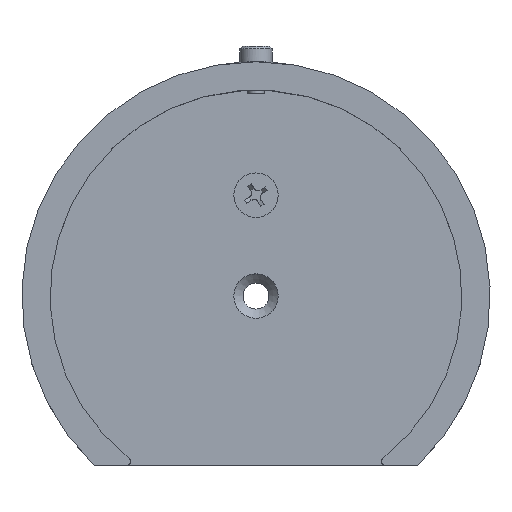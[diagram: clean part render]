
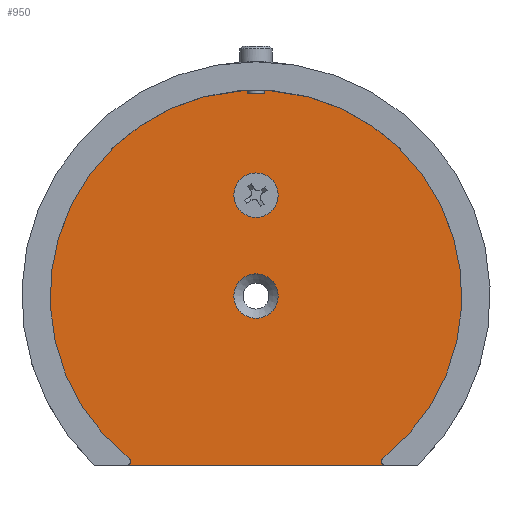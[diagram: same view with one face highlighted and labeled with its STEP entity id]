
A CAD part, top view. The second image highlights one B-rep face of the part: STEP entity #950.
In plain terms, the highlighted planar face has unit normal (0, 0, 1).
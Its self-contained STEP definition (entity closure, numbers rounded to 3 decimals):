
#44=FACE_BOUND('',#114,.T.);
#45=FACE_BOUND('',#115,.T.);
#55=FACE_OUTER_BOUND('',#113,.T.);
#113=EDGE_LOOP('',(#607,#608,#609,#610));
#114=EDGE_LOOP('',(#611));
#115=EDGE_LOOP('',(#612));
#181=CIRCLE('',#1033,0.5);
#182=CIRCLE('',#1034,25.5);
#183=CIRCLE('',#1035,0.5);
#184=CIRCLE('',#1036,2.75);
#185=CIRCLE('',#1037,2.75);
#220=LINE('',#1419,#305);
#305=VECTOR('',#1138,10.);
#393=VERTEX_POINT('',#1417);
#394=VERTEX_POINT('',#1418);
#395=VERTEX_POINT('',#1420);
#396=VERTEX_POINT('',#1422);
#397=VERTEX_POINT('',#1425);
#398=VERTEX_POINT('',#1427);
#478=EDGE_CURVE('',#393,#394,#220,.T.);
#479=EDGE_CURVE('',#395,#394,#181,.F.);
#480=EDGE_CURVE('',#395,#396,#182,.T.);
#481=EDGE_CURVE('',#393,#396,#183,.F.);
#482=EDGE_CURVE('',#397,#397,#184,.T.);
#483=EDGE_CURVE('',#398,#398,#185,.T.);
#607=ORIENTED_EDGE('',*,*,#478,.T.);
#608=ORIENTED_EDGE('',*,*,#479,.F.);
#609=ORIENTED_EDGE('',*,*,#480,.T.);
#610=ORIENTED_EDGE('',*,*,#481,.F.);
#611=ORIENTED_EDGE('',*,*,#482,.T.);
#612=ORIENTED_EDGE('',*,*,#483,.T.);
#862=PLANE('',#1032);
#950=ADVANCED_FACE('',(#55,#44,#45),#862,.F.);
#1032=AXIS2_PLACEMENT_3D('',#1416,#1136,#1137);
#1033=AXIS2_PLACEMENT_3D('',#1421,#1139,#1140);
#1034=AXIS2_PLACEMENT_3D('',#1423,#1141,#1142);
#1035=AXIS2_PLACEMENT_3D('',#1424,#1143,#1144);
#1036=AXIS2_PLACEMENT_3D('',#1426,#1145,#1146);
#1037=AXIS2_PLACEMENT_3D('',#1428,#1147,#1148);
#1136=DIRECTION('center_axis',(0.,0.,-1.));
#1137=DIRECTION('ref_axis',(-1.,0.,0.));
#1138=DIRECTION('',(1.,0.,0.));
#1139=DIRECTION('center_axis',(0.,0.,-1.));
#1140=DIRECTION('ref_axis',(-0.945,-0.326,0.));
#1141=DIRECTION('center_axis',(0.,0.,1.));
#1142=DIRECTION('ref_axis',(-1.,0.,0.));
#1143=DIRECTION('center_axis',(0.,0.,-1.));
#1144=DIRECTION('ref_axis',(0.945,-0.326,0.));
#1145=DIRECTION('center_axis',(0.,0.,-1.));
#1146=DIRECTION('ref_axis',(1.,0.,0.));
#1147=DIRECTION('center_axis',(0.,0.,-1.));
#1148=DIRECTION('ref_axis',(1.,0.,0.));
#1416=CARTESIAN_POINT('Origin',(0.,0.,3.));
#1417=CARTESIAN_POINT('',(-16.023,-20.976,3.));
#1418=CARTESIAN_POINT('',(16.023,-20.976,3.));
#1419=CARTESIAN_POINT('',(10.012,-20.976,3.));
#1420=CARTESIAN_POINT('',(15.715,-20.082,3.));
#1421=CARTESIAN_POINT('Origin',(16.023,-20.476,3.));
#1422=CARTESIAN_POINT('',(-15.715,-20.082,3.));
#1423=CARTESIAN_POINT('Origin',(0.,0.,3.));
#1424=CARTESIAN_POINT('Origin',(-16.023,-20.476,3.));
#1425=CARTESIAN_POINT('',(-2.75,12.5,3.));
#1426=CARTESIAN_POINT('Origin',(0.,12.5,3.));
#1427=CARTESIAN_POINT('',(-2.75,0.,3.));
#1428=CARTESIAN_POINT('Origin',(0.,0.,3.));
